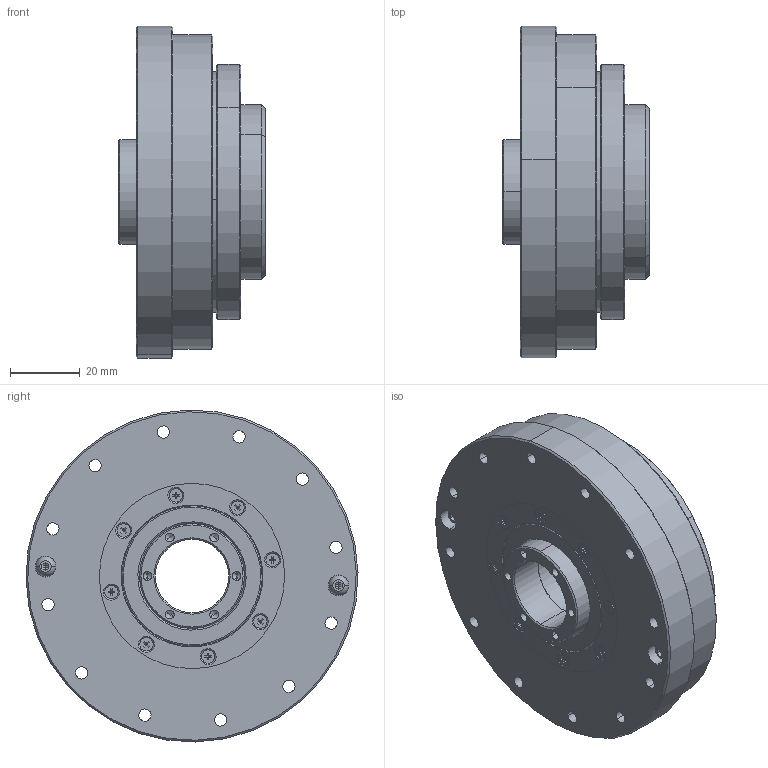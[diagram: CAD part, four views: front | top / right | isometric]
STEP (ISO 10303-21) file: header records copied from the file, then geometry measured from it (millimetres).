
FILE_DESCRIPTION (( 'STEP AP203' ), '1' );
FILE_NAME ('LHD-20-XXX-C-III.STEP', '2016-08-26T08:39:27', ( 'Windows 蚚誧' ), ( 'Users' ), 'SwSTEP 2.0', 'SolidWorks 2013', '' );
FILE_SCHEMA (( 'CONFIG_CONTROL_DESIGN' ));
Length unit declared in the file: millimetre
Products named in the file (20): 坋趼羞麥芛蹟隊M2 x 4_ISO 7046-1 - M2 x 4 - Z --- 4N; DB-20-C-III-1; 囀鞠褒攫芛蹟隊M3X6_GB_SOCKET_TYPE7 M3X6-N; LHD-20-XXX-P06-III; 囀鞠褒攫芛蹟隊M3X8_GB_SOCKET_TYPE7 M3X6-N; LHD-20-XXX-P07-III; LHD-20-XXX-P03-III; 内六角圆柱头螺钉M3 x 6_内六角圆柱头螺钉M3 x 6; LHD-20-XXX-P01-III; RZC-20S内外圈+钢球; LHD-20-XXX-P08-III; LHD-20-XXX-P04-III; RZC-20悵厥殤; LHD-20-XXX-C-III; LHD-20-XXX-P02-III; 柔性轴承RZC-20S; 15Z-30405; DB-20-C-III-2; 15Z-70795; 6806zz
Assembly tree (37 placements, depth 3):
  LHD-20-XXX-C-III
    LHD-20-XXX-P03-III
    柔性轴承RZC-20S
      RZC-20S内外圈+钢球
      RZC-20悵厥殤
    DB-20-C-III-2
    6806zz  x2
    DB-20-C-III-1
    LHD-20-XXX-P06-III
    LHD-20-XXX-P07-III
    LHD-20-XXX-P01-III
    LHD-20-XXX-P04-III
    LHD-20-XXX-P02-III
    15Z-30405  x2
    15Z-70795
    坋趼羞麥芛蹟隊M2 x 4_ISO 7046-1 - M2 x 4 - Z --- 4N  x8
    囀鞠褒攫芛蹟隊M3X6_GB_SOCKET_TYPE7 M3X6-N  x2
    囀鞠褒攫芛蹟隊M3X8_GB_SOCKET_TYPE7 M3X6-N  x2
    内六角圆柱头螺钉M3 x 6_内六角圆柱头螺钉M3 x 6  x8
    LHD-20-XXX-P08-III
Bounding box: 42 x 94.98 x 94.98 mm (x, y, z)
Volume: 150130.6 mm3; surface area: 124459.6 mm2
Topology: 109 solids, 109 shells, 1678 faces, 4071 edges, 2485 vertices
Faces by surface type: cylinder 590, plane 494, cone 318, sphere 146, torus 130
Entity records: 33218 total; most frequent: DIRECTION 6075, CARTESIAN_POINT 5035, ORIENTED_EDGE 4736, AXIS2_PLACEMENT_3D 2613, EDGE_CURVE 2368, VERTEX_POINT 1521, CIRCLE 1506, EDGE_LOOP 1389
